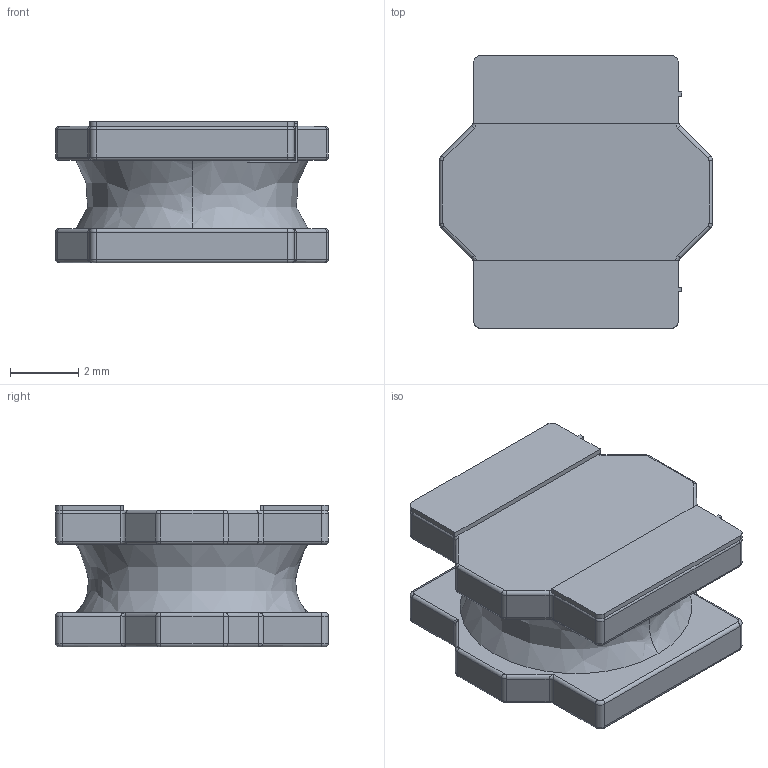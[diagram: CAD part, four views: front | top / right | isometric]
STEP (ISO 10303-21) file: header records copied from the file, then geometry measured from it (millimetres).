
FILE_DESCRIPTION (( 'STEP AP214' ), '1' );
FILE_NAME ('PNS8040-stp.STEP', '2024-11-11T10:14:03', ( '' ), ( '' ), 'SwSTEP 2.0', 'SolidWorks 2020', '' );
FILE_SCHEMA (( 'AUTOMOTIVE_DESIGN' ));
Length unit declared in the file: millimetre
Products named in the file (1): PNS8040-stp
Bounding box: 8 x 8 x 4.15 mm (x, y, z)
Volume: 174 mm3; surface area: 440.4 mm2
Topology: 5 solids, 5 shells, 200 faces, 478 edges, 276 vertices
Faces by surface type: cylinder 80, plane 70, torus 40, bspline 10
Entity records: 8052 total; most frequent: CARTESIAN_POINT 1167, DIRECTION 1022, ORIENTED_EDGE 940, EDGE_CURVE 470, AXIS2_PLACEMENT_3D 379, VERTEX_POINT 276, LINE 264, VECTOR 264
